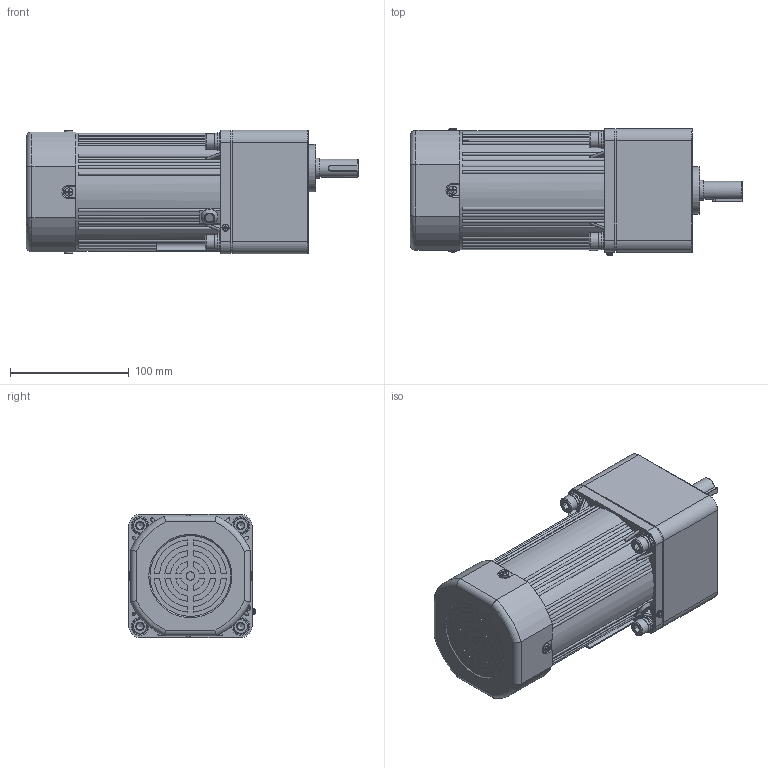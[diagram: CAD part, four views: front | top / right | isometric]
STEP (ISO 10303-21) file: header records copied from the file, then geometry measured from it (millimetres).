
FILE_DESCRIPTION(/* description */ (''),/* implementation_level */ '2;1');
FILE_NAME(/* name */ '6RK160-200CC·RF#6GU3-750K-C·15L.stp',/* time_stamp */ '2024-05-29T19:48:34+08:00',/* author */ (''),/* organization */ (''),/* preprocessor_version */ 'ST-DEVELOPER v18.102',/* originating_system */ 'SIEMENS PLM Software NX 2027',/* authorisation */ '');
FILE_SCHEMA (('AP203_CONFIGURATION_CONTROLLED_3D_DESIGN_OF_MECHANICAL_PARTS_AND_ASSEMBLIES_MIM_LF { 1 0 10303 403 2 1 2}'));
Length unit declared in the file: millimetre
Products named in the file (1): A0_objects
Bounding box: 279.5 x 106.83 x 104.06 mm (x, y, z)
Volume: 2112968.7 mm3; surface area: 159371.9 mm2
Topology: 15 solids, 15 shells, 918 faces, 2374 edges, 1537 vertices
Faces by surface type: plane 397, cylinder 213, bspline 190, cone 74, torus 26, sphere 18
Full cylindrical faces by diameter (mm): 2.6 x1, 3.2 x1, 4 x1, 4.55 x1, 5.1 x1, 5.15 x1, 6 x1, 6.8 x16, 7 x1, 7.5 x1, 7.76 x4, 8.4 x4, 8.5 x4, 9 x4, 13 x5, 14 x5, 15 x5, 15.5 x1, 17 x1, 17.3 x1, 19 x1, 30 x1, 40 x1, 76 x1, 89 x1, 95 x1, 96.5 x1, 97 x2, 100 x2
Entity records: 29287 total; most frequent: CARTESIAN_POINT 7795, ORIENTED_EDGE 4384, DIRECTION 3722, EDGE_CURVE 2192, AXIS2_PLACEMENT_3D 1474, VERTEX_POINT 1471, EDGE_LOOP 1115, ADVANCED_FACE 918
